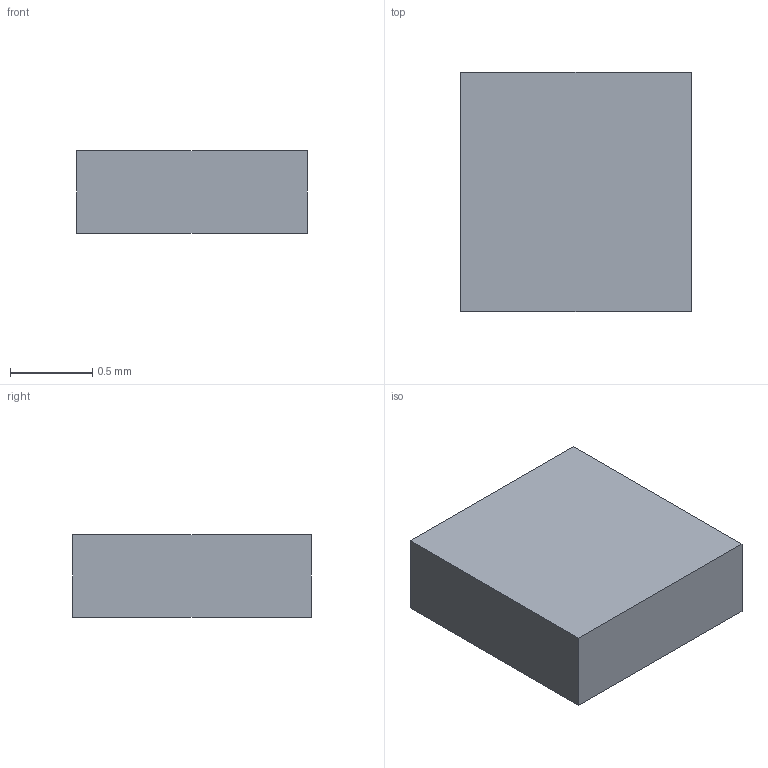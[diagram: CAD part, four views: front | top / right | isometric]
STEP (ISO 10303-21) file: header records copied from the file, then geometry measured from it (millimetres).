
FILE_DESCRIPTION(('Open CASCADE Model'),'2;1');
FILE_NAME('Open CASCADE Shape Model','2026-10-07T16:53:52',('Author'),( 'Open CASCADE'),'Open CASCADE STEP processor 7.8','Open CASCADE 7.8' ,'Unknown');
FILE_SCHEMA(('AUTOMOTIVE_DESIGN { 1 0 10303 214 1 1 1 1 }'));
Length unit declared in the file: millimetre
Products named in the file (1): Open CASCADE STEP translator 7.8 6
Bounding box: 1.4 x 1.45 x 0.5 mm (x, y, z)
Volume: 1 mm3; surface area: 6.9 mm2
Topology: 1 solids, 1 shells, 6 faces, 12 edges, 8 vertices
Faces by surface type: plane 6
Entity records: 322 total; most frequent: CARTESIAN_POINT 51, DIRECTION 50, LINE 36, VECTOR 36, ORIENTED_EDGE 24, PCURVE 24, DEFINITIONAL_REPRESENTATION 24, EDGE_CURVE 12
